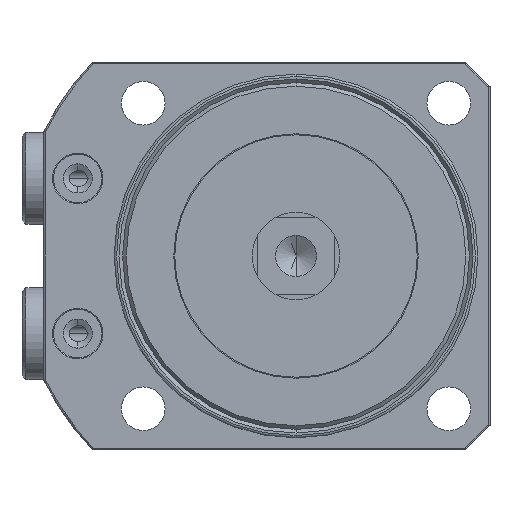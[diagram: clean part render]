
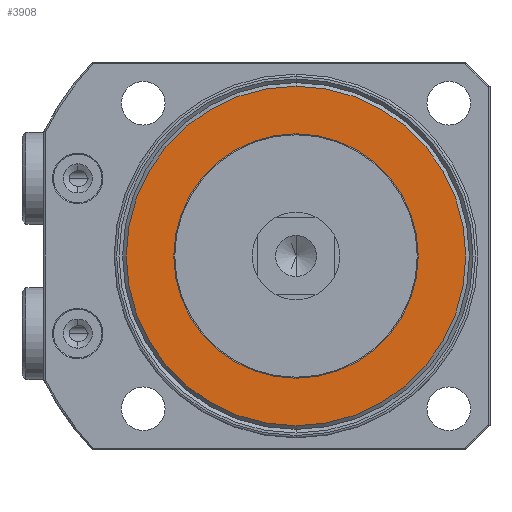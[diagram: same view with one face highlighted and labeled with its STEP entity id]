
A CAD part, front view. The second image highlights one B-rep face of the part: STEP entity #3908.
In plain terms, the highlighted planar face has unit normal (0, -1, 0) as drawn and (1, 0, 0) by its records, which use the part's own axes.
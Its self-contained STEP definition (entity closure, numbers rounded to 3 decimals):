
#2 = ORIENTED_EDGE ( 'NONE', *, *, #1420, .F. ) ;
#247 = EDGE_CURVE ( 'NONE', #1129, #2471, #2500, .T. ) ;
#402 = DIRECTION ( 'NONE',  ( -1., 0., 0. ) ) ;
#497 = FACE_BOUND ( 'NONE', #1094, .T. ) ;
#554 = EDGE_LOOP ( 'NONE', ( #2, #4632 ) ) ;
#648 = DIRECTION ( 'NONE',  ( 0., 0., -1. ) ) ;
#654 = CARTESIAN_POINT ( 'NONE',  ( 64., 0., -35. ) ) ;
#766 = CARTESIAN_POINT ( 'NONE',  ( 64., 0., 0. ) ) ;
#1094 = EDGE_LOOP ( 'NONE', ( #1702, #6713 ) ) ;
#1129 = VERTEX_POINT ( 'NONE', #2659 ) ;
#1249 = PLANE ( 'NONE',  #7719 ) ;
#1394 = DIRECTION ( 'NONE',  ( 0., 0., 1. ) ) ;
#1420 = EDGE_CURVE ( 'NONE', #4290, #6131, #6043, .T. ) ;
#1469 = AXIS2_PLACEMENT_3D ( 'NONE', #4047, #402, #4652 ) ;
#1702 = ORIENTED_EDGE ( 'NONE', *, *, #2823, .T. ) ;
#2134 = FACE_OUTER_BOUND ( 'NONE', #554, .T. ) ;
#2471 = VERTEX_POINT ( 'NONE', #3937 ) ;
#2500 = CIRCLE ( 'NONE', #5268, 25.2 ) ;
#2659 = CARTESIAN_POINT ( 'NONE',  ( 64., 0., -25.2 ) ) ;
#2823 = EDGE_CURVE ( 'NONE', #2471, #1129, #5637, .T. ) ;
#3004 = DIRECTION ( 'NONE',  ( -1., 0., 0. ) ) ;
#3339 = DIRECTION ( 'NONE',  ( -1., 0., 0. ) ) ;
#3831 = AXIS2_PLACEMENT_3D ( 'NONE', #6648, #3004, #7261 ) ;
#3908 = ADVANCED_FACE ( 'NONE', ( #497, #2134 ), #1249, .T. ) ;
#3937 = CARTESIAN_POINT ( 'NONE',  ( 64., 0., 25.2 ) ) ;
#4047 = CARTESIAN_POINT ( 'NONE',  ( 64., 0., 0. ) ) ;
#4279 = DIRECTION ( 'NONE',  ( 1., 0., 0. ) ) ;
#4290 = VERTEX_POINT ( 'NONE', #7701 ) ;
#4460 = EDGE_CURVE ( 'NONE', #6131, #4290, #5708, .T. ) ;
#4632 = ORIENTED_EDGE ( 'NONE', *, *, #4460, .F. ) ;
#4652 = DIRECTION ( 'NONE',  ( 0., 0., 1. ) ) ;
#5010 = DIRECTION ( 'NONE',  ( -1., 0., 0. ) ) ;
#5268 = AXIS2_PLACEMENT_3D ( 'NONE', #766, #5010, #1394 ) ;
#5637 = CIRCLE ( 'NONE', #6985, 25.2 ) ;
#5708 = CIRCLE ( 'NONE', #3831, 35. ) ;
#6043 = CIRCLE ( 'NONE', #1469, 35. ) ;
#6131 = VERTEX_POINT ( 'NONE', #654 ) ;
#6648 = CARTESIAN_POINT ( 'NONE',  ( 64., 0., 0. ) ) ;
#6713 = ORIENTED_EDGE ( 'NONE', *, *, #247, .T. ) ;
#6724 = CARTESIAN_POINT ( 'NONE',  ( 64., 25.2, 0. ) ) ;
#6985 = AXIS2_PLACEMENT_3D ( 'NONE', #7002, #3339, #7615 ) ;
#7002 = CARTESIAN_POINT ( 'NONE',  ( 64., 0., 0. ) ) ;
#7261 = DIRECTION ( 'NONE',  ( 0., 0., 1. ) ) ;
#7615 = DIRECTION ( 'NONE',  ( 0., 0., 1. ) ) ;
#7701 = CARTESIAN_POINT ( 'NONE',  ( 64., 0., 35. ) ) ;
#7719 = AXIS2_PLACEMENT_3D ( 'NONE', #6724, #4279, #648 ) ;
